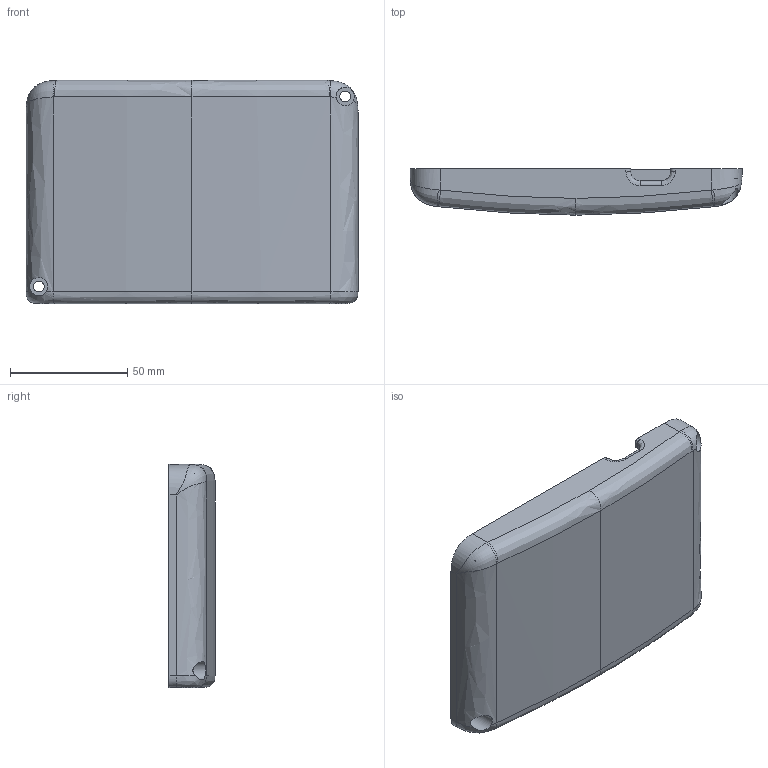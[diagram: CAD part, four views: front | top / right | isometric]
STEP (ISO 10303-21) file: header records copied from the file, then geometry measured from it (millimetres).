
FILE_DESCRIPTION(/* description */ ('STEP AP242','CAx-IF Rec.Pracs.---Representation and Presentation of Product Manufacturing Information (PMI)---4.0---2014-10-13','CAx-IF Rec.Pracs.---3D Tessellated Geometry---0.4---2014-09-14','2;1'),/* implementation_level */ '2;1');
FILE_NAME(/* name */ '6869dfa8e1723828ff5577aa',/* time_stamp */ '2025-07-06T02:30:01Z',/* author */ (''),/* organization */ (''),/* preprocessor_version */ 'ST-DEVELOPER v20',/* originating_system */ 'ONSHAPE BY PTC INC, 1.200',/* authorisation */ ' ');
FILE_SCHEMA (('AP242_MANAGED_MODEL_BASED_3D_ENGINEERING_MIM_LF { 1 0 10303 442 1 1 4 }'));
Length unit declared in the file: metre
Products named in the file (1): Part 1
Bounding box: 141.4 x 19.59 x 95 mm (x, y, z)
Volume: 104708.9 mm3; surface area: 38649.3 mm2
Topology: 1 solids, 1 shells, 62 faces, 146 edges, 92 vertices
Faces by surface type: plane 23, bspline 23, cylinder 16
Full cylindrical faces by diameter (mm): 3 x4, 4.6 x2, 6 x4, 7.8 x2
Entity records: 3862 total; most frequent: CARTESIAN_POINT 2688, ORIENTED_EDGE 252, DIRECTION 166, EDGE_CURVE 126, VERTEX_POINT 86, EDGE_LOOP 86, FACE_BOUND 86, B_SPLINE_CURVE_WITH_KNOTS 68
